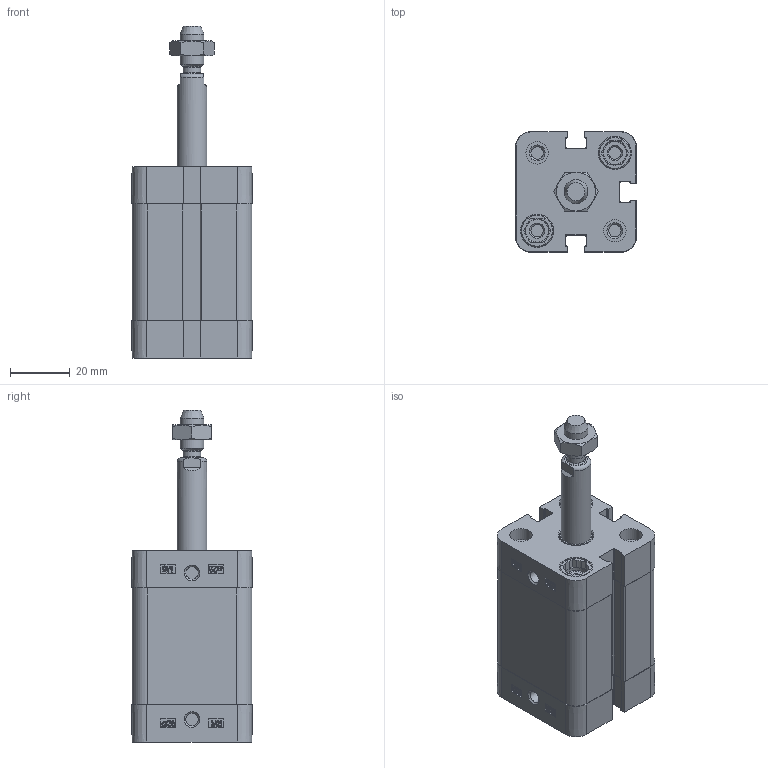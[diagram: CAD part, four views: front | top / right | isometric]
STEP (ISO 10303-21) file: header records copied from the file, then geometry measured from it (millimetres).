
FILE_DESCRIPTION(/* description */ ('Unknown'),/* implementation_level */ '2;1');
FILE_NAME(/* name */ 'ZEFV 25_25',/* time_stamp */ '2025-01-24T11:37:43+01:00',/* author */ ('Unknown'),/* organization */ ('HAFNER Pneumatika Kft'),/* preprocessor_version */ 'ST-DEVELOPER v16.7',/* originating_system */ 'Solid Edge',/* authorisation */ 'Unknown');
FILE_SCHEMA (('AUTOMOTIVE_DESIGN {1 0 10303 214 3 1 1}'));
Length unit declared in the file: millimetre
Products named in the file (6): ZEFV 25_25; Mutter; Profilrohr; Kolbenstange; Kit_2; Kit_1
Assembly tree (5 placements, depth 2):
  ZEFV 25_25
    Mutter
    Profilrohr
    Kolbenstange
    Kit_2
    Kit_1
Bounding box: 40.3 x 40.3 x 111 mm (x, y, z)
Volume: 83107.9 mm3; surface area: 32576.4 mm2
Topology: 5 solids, 11 shells, 609 faces, 1603 edges, 1055 vertices
Faces by surface type: plane 307, cylinder 142, bspline 84, cone 58, torus 18
Full cylindrical faces by diameter (mm): 4.134 x10, 5.8 x1, 6.647 x1, 7.5 x4, 8 x9, 9 x1, 10 x1, 10.48 x1, 10.9 x4, 11.1 x4, 11.4 x1, 12 x1, 13.84 x1, 14 x1, 25 x2
Entity records: 22319 total; most frequent: CARTESIAN_POINT 4293, ORIENTED_EDGE 2958, DIRECTION 2710, EDGE_CURVE 1479, VERTEX_POINT 1025, AXIS2_PLACEMENT_3D 912, LINE 886, VECTOR 886
